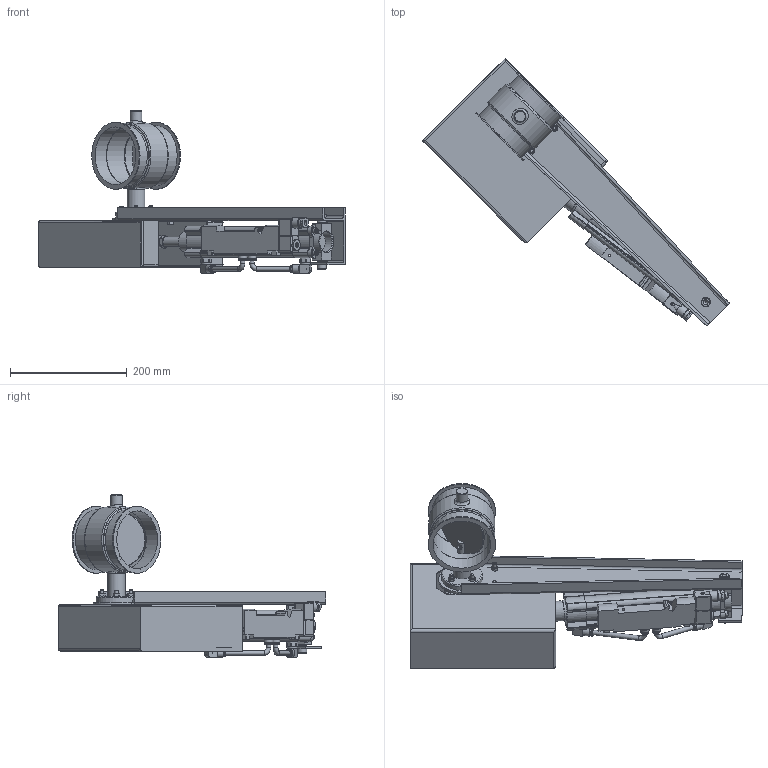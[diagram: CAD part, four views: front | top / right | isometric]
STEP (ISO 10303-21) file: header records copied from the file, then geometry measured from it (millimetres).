
FILE_DESCRIPTION((''),'2;1');
FILE_NAME('U:\Wolfgang\Marcel-3D\fertig\Kapitel 8\1021210.stp','2011-05-03T15:06:47',('TK1'),(''),'Autodesk Inventor 2010','Autodesk Inventor 2010','');
FILE_SCHEMA(('AUTOMOTIVE_DESIGN { 1 0 10303 214 1 1 1 1 }'));
Length unit declared in the file: millimetre
Products named in the file (38): 1021210; BuchseD15 70-50; 1021210-1; Bolzen D15; Scheibe100b; F1 Zylindereinheit; 174412_ZNCF_40_6_0; 174412_ZNCF_40_6_01; 174412_ZNCF_40_6_02; 174412_ZNCF_40_6_03; 174412_ZNCF_40_6_04; 174412_ZNCF_40_6_05; 532743_DNCB_40_160_PPV_A_6_0; 532743_DNCB_40_160_PPV_A_6_01; 532743_DNCB_40_160_PPV_A_6_02; 537600_VUVB_S_B42_ZD_Q8_3AC1_6_0; 537600_VUVB_S_B42_ZD_Q8_3AC1_6_01; 537600_VUVB_S_B42_ZD_Q8_3AC1_6_02; 537600_VUVB_S_B42_ZD_Q8_3AC1_6_03; 4527_MSFG_24_42_50_60_6_0; 4527_MSFG_24_42_50_60_6_01; 4527_MSFG_24_42_50_60_6_02; 153414_QSRL_1_4_8_6_0; schlauch; Strebe d15; 0021088 d15; Bolzen; Schutzkasten; Kasten-a; Kasten-b; 13570_CRSG_M12x125_6_0; ISO 4018 M6 x 20; ISO 4032 M6; ISO 4018 M8 x 30; ISO 4027 M6 x 10; DIN 6912 M6 x 16; DIN 555 - ersetzt durch DIN EN 24034 M6; DIN EN ISO 4018 M6x25
Assembly tree (50 placements, depth 4):
  1021210
    BuchseD15 70-50
    1021210-1
    Bolzen D15  x2
    Scheibe100b
    F1 Zylindereinheit
      174412_ZNCF_40_6_0
        174412_ZNCF_40_6_01
        174412_ZNCF_40_6_02
        174412_ZNCF_40_6_03
        174412_ZNCF_40_6_04
        174412_ZNCF_40_6_05
      532743_DNCB_40_160_PPV_A_6_0
        532743_DNCB_40_160_PPV_A_6_01
        532743_DNCB_40_160_PPV_A_6_02
      537600_VUVB_S_B42_ZD_Q8_3AC1_6_0
        537600_VUVB_S_B42_ZD_Q8_3AC1_6_01
        537600_VUVB_S_B42_ZD_Q8_3AC1_6_02
        537600_VUVB_S_B42_ZD_Q8_3AC1_6_03
      4527_MSFG_24_42_50_60_6_0
        4527_MSFG_24_42_50_60_6_01
        4527_MSFG_24_42_50_60_6_02
      153414_QSRL_1_4_8_6_0  x2
      schlauch  x2
      Strebe d15
      0021088 d15
      Bolzen
      Schutzkasten
        Kasten-a
        Kasten-b
      13570_CRSG_M12x125_6_0
      ISO 4018 M6 x 20  x2
      ISO 4032 M6  x2
      ISO 4018 M8 x 30
      ISO 4027 M6 x 10  x2
    DIN 6912 M6 x 16  x2
    DIN 555 - ersetzt durch DIN EN 24034 M6  x4
    DIN EN ISO 4018 M6x25  x4
Bounding box: 526.09 x 458.91 x 278.27 mm (x, y, z)
Volume: 1455889.3 mm3; surface area: 757744.3 mm2
Topology: 44 solids, 44 shells, 2638 faces, 6984 edges, 4534 vertices
Faces by surface type: plane 1950, cylinder 407, cone 223, bspline 45, torus 11, sphere 2
Full cylindrical faces by diameter (mm): 1 x3, 2.459 x1, 3 x4, 3.5 x1, 4 x1, 4.5 x1, 4.917 x8, 5 x2, 5.471 x2, 5.5 x1, 6 x37, 6.8 x4, 7.188 x1, 8 x10, 8.05 x1, 9 x2, 9.6 x2, 9.653 x1, 10 x8, 10.15 x2, 11.2 x2, 11.445 x2, 12 x6, 12.5 x1, 13.05 x2, 13.157 x2, 14 x6, 14.4 x4, 14.5 x2, 14.7 x6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
Entity records: 76959 total; most frequent: CARTESIAN_POINT 15226, ORIENTED_EDGE 12304, DIRECTION 11875, EDGE_CURVE 6152, VECTOR 4911, LINE 4911, VERTEX_POINT 4175, AXIS2_PLACEMENT_3D 3482
